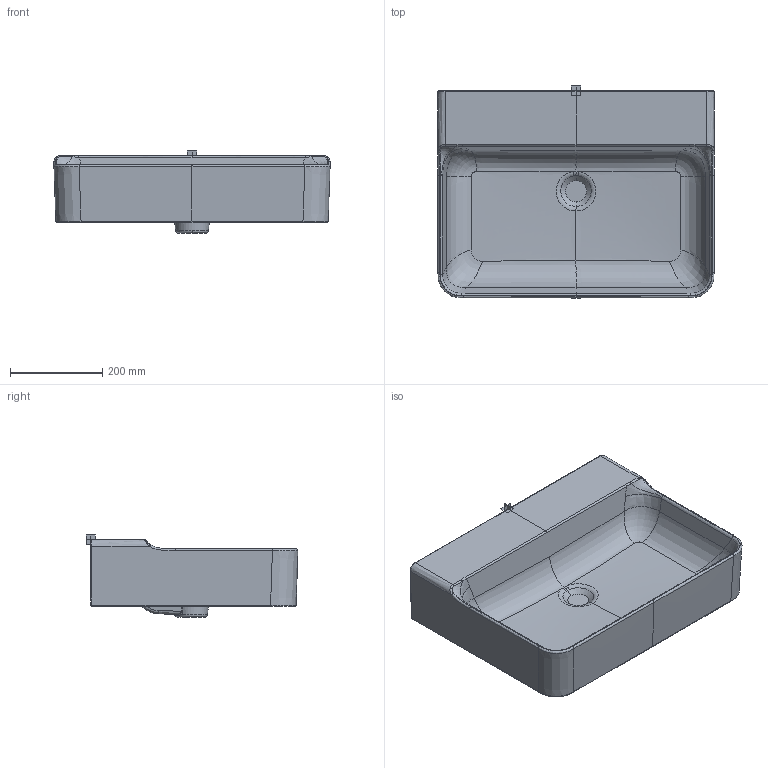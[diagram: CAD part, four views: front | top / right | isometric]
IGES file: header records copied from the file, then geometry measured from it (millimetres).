
Start section: JAMA-IS VERSION  1.0  PTC IGES file: t3691_mk1_3dpl.igs
Global section: file name: t3691_mk1_3dpl.igs; native system: Creo Parametric by PTC Inc.; preprocessor: 2016130; author: RibentsovV; organization: Unknown; date: 20190619.105341; units: millimetre
Bounding box: 600 x 460.07 x 178 mm (x, y, z)
Volume: 19892501.3 mm3; surface area: 908422.3 mm2
Topology: 1 solids, 4 shells, 113 faces, 286 edges, 194 vertices
Faces by surface type: bspline 113
